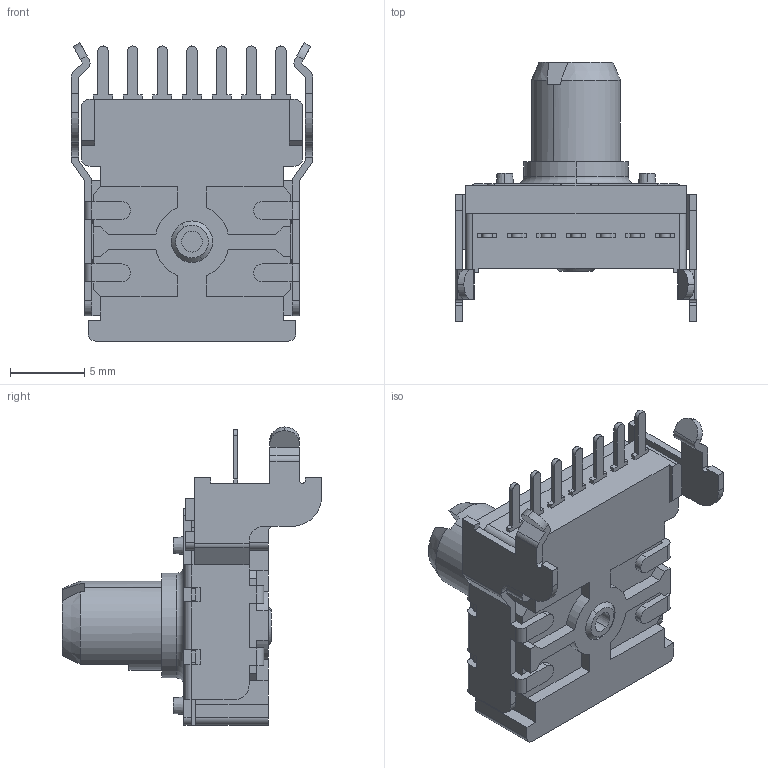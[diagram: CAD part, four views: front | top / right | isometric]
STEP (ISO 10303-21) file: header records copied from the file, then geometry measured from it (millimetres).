
FILE_DESCRIPTION (( 'STEP AP203' ), '1' );
FILE_NAME ('P140KV-F15.STEP', '2026-09-15T14:53:52', ( '' ), ( '' ), 'SwSTEP 2.0', 'SolidWorks 2026', '' );
FILE_SCHEMA (( 'CONFIG_CONTROL_DESIGN' ));
Length unit declared in the file: millimetre
Products named in the file (7): Housing; KV_housing; P140KV-F15; H-terminal; F15; spring_plate; KV bracket
Assembly tree (12 placements, depth 3):
  P140KV-F15
    KV_housing
      Housing
      H-terminal  x7
    F15
    spring_plate
    KV bracket
Bounding box: 16.3 x 17.5 x 20.1 mm (x, y, z)
Volume: 1191.9 mm3; surface area: 2552.7 mm2
Topology: 11 solids, 11 shells, 522 faces, 1435 edges, 936 vertices
Faces by surface type: plane 360, cylinder 140, cone 8, bspline 8, torus 6
Entity records: 15800 total; most frequent: CARTESIAN_POINT 2797, ORIENTED_EDGE 2582, DIRECTION 2473, EDGE_CURVE 1291, LINE 961, VECTOR 961, VERTEX_POINT 840, AXIS2_PLACEMENT_3D 756
